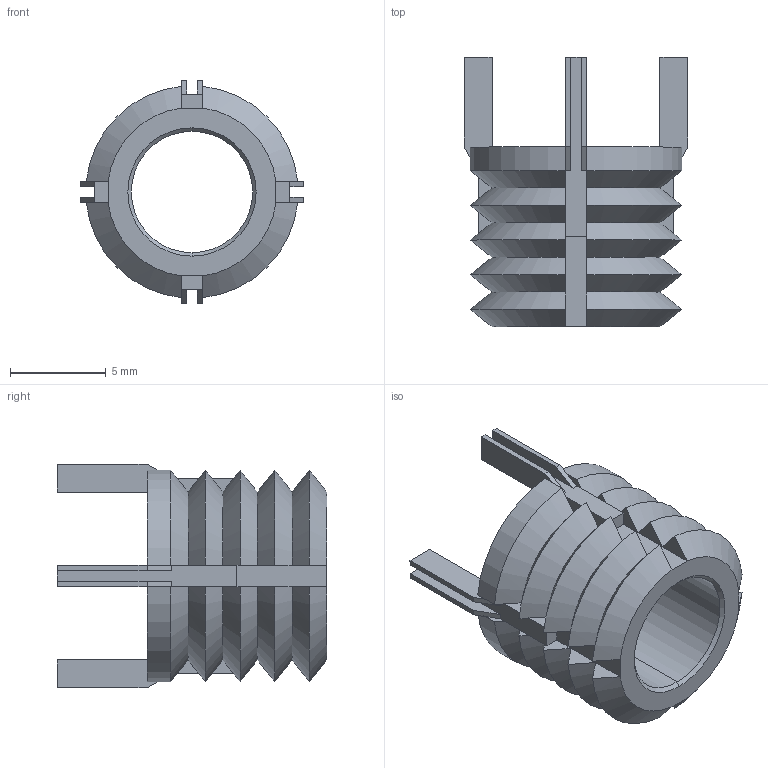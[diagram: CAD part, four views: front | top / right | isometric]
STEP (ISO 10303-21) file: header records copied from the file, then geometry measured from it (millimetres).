
FILE_DESCRIPTION (( 'STEP AP203' ), '1' );
FILE_NAME ('TR1565.66302.step', '2023-03-29T14:30:37', ( '' ), ( '' ), 'SwSTEP 2.0', 'SolidWorks 2019', '' );
FILE_SCHEMA (( 'CONFIG_CONTROL_DESIGN' ));
Length unit declared in the file: inch
Products named in the file (3): Part2_TR1565.66302; TR1565.66302; Part1_TR1565.66302
Assembly tree (5 placements, depth 2):
  TR1565.66302
    Part1_TR1565.66302
    Part2_TR1565.66302  x4
Bounding box: 11.68 x 14.1 x 11.68 mm (x, y, z)
Volume: 473.8 mm3; surface area: 960.9 mm2
Topology: 5 solids, 5 shells, 140 faces, 314 edges, 184 vertices
Faces by surface type: plane 94, cone 40, cylinder 6
Entity records: 3243 total; most frequent: CARTESIAN_POINT 724, ORIENTED_EDGE 448, DIRECTION 428, EDGE_CURVE 224, AXIS2_PLACEMENT_3D 164, VERTEX_POINT 124, EDGE_LOOP 106, ADVANCED_FACE 104
